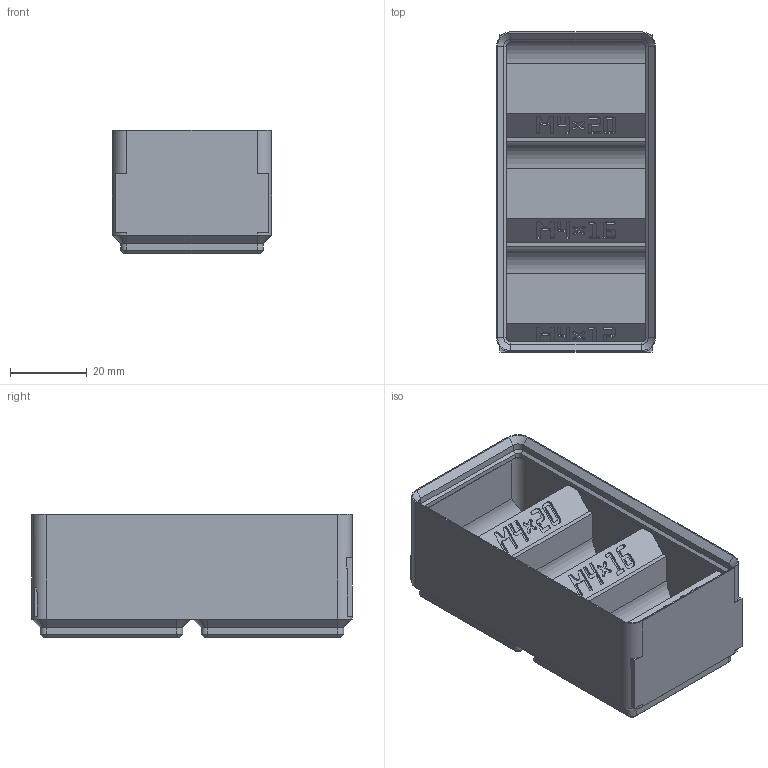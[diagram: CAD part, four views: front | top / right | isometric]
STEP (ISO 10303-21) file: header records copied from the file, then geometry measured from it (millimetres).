
FILE_DESCRIPTION(('Open CASCADE Model'),'2;1');
FILE_NAME('Open CASCADE Shape Model','2026-11-03T10:59:35',('Author'),( 'Open CASCADE'),'Open CASCADE STEP processor 8.0','build123d', 'Unknown');
FILE_SCHEMA(('AUTOMOTIVE_DESIGN { 1 0 10303 214 1 1 1 1 }'));
Products named in the file (1): COMPOUND
Bounding box: 41.5 x 83.5 x 32.1 mm (x, y, z)
Volume: 31185.5 mm3; surface area: 24751 mm2
Topology: 1 solids, 1 shells, 1615 faces, 4705 edges, 3114 vertices
Faces by surface type: plane 1556, cylinder 31, cone 28
Entity records: 113303 total; most frequent: CARTESIAN_POINT 19538, DIRECTION 17051, LINE 13603, VECTOR 13603, ORIENTED_EDGE 9410, PCURVE 9410, DEFINITIONAL_REPRESENTATION 9410, EDGE_CURVE 4705
